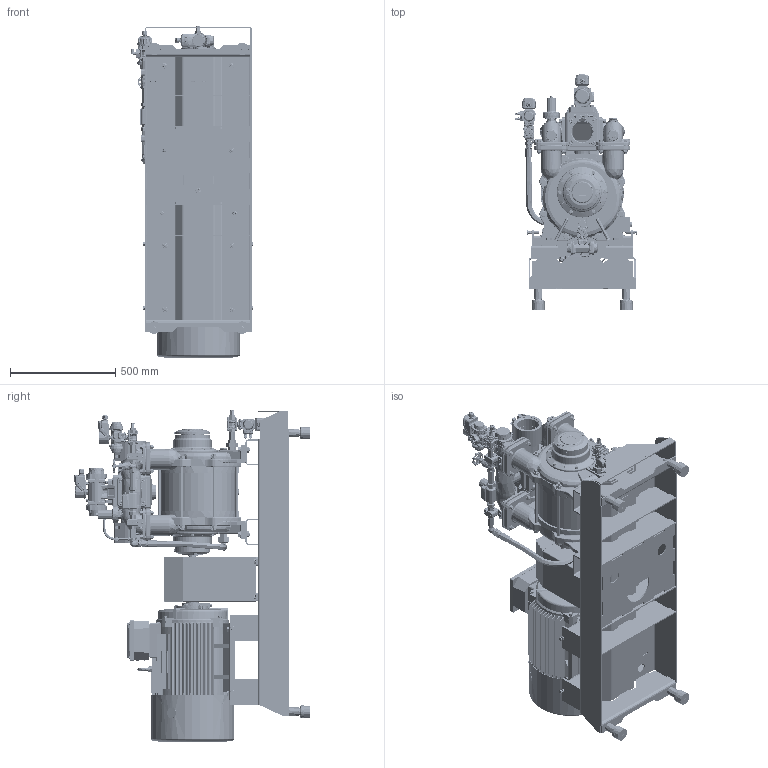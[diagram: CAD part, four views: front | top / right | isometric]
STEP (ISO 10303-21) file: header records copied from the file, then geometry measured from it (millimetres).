
FILE_DESCRIPTION(/* description */ (''),/* implementation_level */ '2;1');
FILE_NAME(/* name */ '1700146.stp',/* time_stamp */ '2025-07-31T14:01:32+02:00',/* author */ ('JJ'),/* organization */ (''),/* preprocessor_version */ 'ST-DEVELOPER v20',/* originating_system */ 'Autodesk Inventor 2025',/* authorisation */ '');
FILE_SCHEMA (('AUTOMOTIVE_DESIGN { 1 0 10303 214 3 1 1 }'));
Products named in the file (91): 1700146; 946000127; 932400049; 932300001; 932300005; 932400048; 910100155; 910000526; 910000297; 910000517; 1632204; 910100021; 1632205; 1632208; 910100161; 961000522; 1632212; 927000162-388 version 3; 925000873; 925000882; 925000882_part1; 925000882_part2; 925000878; 925000792; 1632216; 925000869; 925200610; 925000857; 910300370; 910100125; 910300468; 1634666_Simplify; 927000134 OM1000 G2; 925100552; 925000865; 925000651; 1632322; 1632270; 1619242_Simplify_OMS; 1619310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
Assembly tree (289 placements, depth 4):
  1700146
    946000127
    932400049
    932300001
    932300005
    932400048  x2
    910100155  x4
    910000526  x4
    910100021  x12
    910000297  x4
    910000517  x4
    1632204  x4
    1632205  x4
    1632208  x4
    910100161  x4
    961000522  x4
    1632212
      925000873  x2
      925000878  x2
      925000882  x2
        925000882_part1
        925000882_part2
      927000162-388 version 3
    925000792
    1632216
      944600329
      944600328
      910100191  x4
      910000114  x4
      948000434
        948000434_part2
        948000434_part1
      915000241  x2
      925000725
      925000869
      925200610
    925000857  x4
    910300370  x4
    910100125  x4
    910300468  x4
    1632246  x2
    1634666_Simplify
    927000134 OM1000 G2
    925100552
    925000865
    925000651
    1632322
    1632270
    1619242_Simplify_OMS
    1619310
      910300079  x16
      910200013  x16
      910100013  x32
      910300073  x8
      1634827  x2
        1634812
        922000267
      1634824  x4
        1634809
        922000269
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Bounding box: 583.35 x 1120.71 x 1580.64 mm (x, y, z)
Volume: 100294062.7 mm3; surface area: 14915803.9 mm2
Topology: 484 solids, 495 shells, 30100 faces, 76504 edges, 48408 vertices
Faces by surface type: plane 13184, cylinder 6837, bspline 5027, cone 2610, torus 2147, sphere 295
Full cylindrical faces by diameter (mm): 0.8 x1, 0.847 x2, 0.857 x2, 1.656 x4, 1.7 x4, 1.8 x4, 2 x28, 2.2 x2, 2.5 x12, 3 x4, 3.2 x1, 3.3 x4, 3.6 x4, 4 x6, 4.134 x8, 4.2 x20, 4.3 x8, 4.33 x4, 4.45 x6, 4.567 x8, 4.917 x15, 5 x20, 5.3 x8, 5.6 x16, 6 x47, 6.25 x8, 6.4 x12, 6.5 x8, 6.647 x6, 6.7 x16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
Entity records: 867461 total; most frequent: CARTESIAN_POINT 411570, ORIENTED_EDGE 95334, DIRECTION 85483, EDGE_CURVE 47667, AXIS2_PLACEMENT_3D 30387, VERTEX_POINT 30274, LINE 24709, VECTOR 24709
